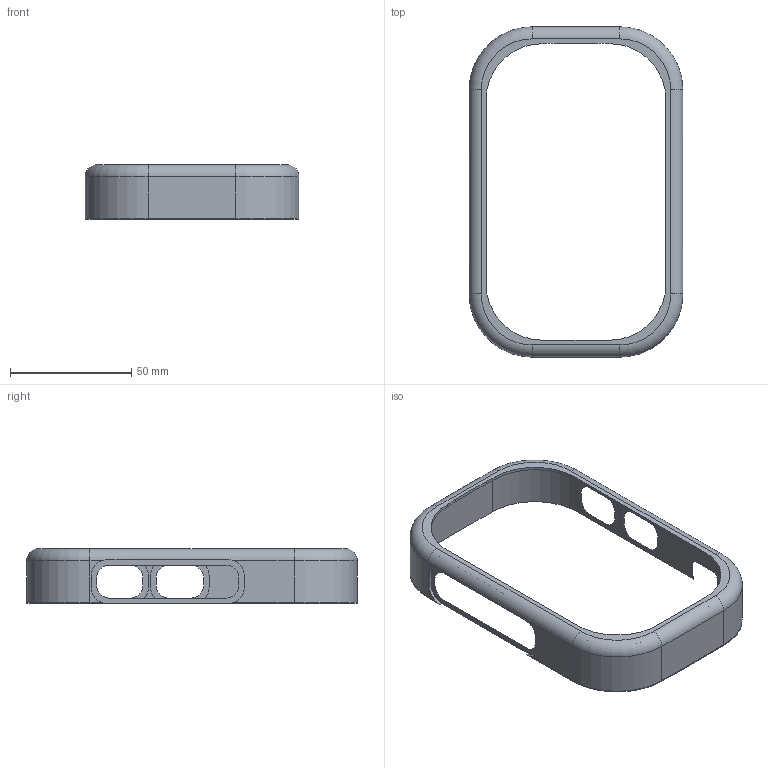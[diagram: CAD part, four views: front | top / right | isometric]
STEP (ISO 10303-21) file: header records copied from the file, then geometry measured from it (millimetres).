
FILE_DESCRIPTION(('Open CASCADE Model'),'2;1');
FILE_NAME('Open CASCADE Shape Model','2026-09-08T16:17:05',('Author'),( 'Open CASCADE'),'Open CASCADE STEP processor 7.7','Open CASCADE 7.7' ,'Unknown');
FILE_SCHEMA(('AUTOMOTIVE_DESIGN { 1 0 10303 214 1 1 1 1 }'));
Length unit declared in the file: millimetre
Products named in the file (1): Open CASCADE STEP translator 7.7 19
Bounding box: 88 x 136 x 22.6 mm (x, y, z)
Volume: 9629.7 mm3; surface area: 19774.6 mm2
Topology: 1 solids, 1 shells, 126 faces, 346 edges, 222 vertices
Faces by surface type: cylinder 62, plane 52, torus 12
Entity records: 8695 total; most frequent: CARTESIAN_POINT 1838, DIRECTION 1287, LINE 709, VECTOR 709, ORIENTED_EDGE 692, PCURVE 692, DEFINITIONAL_REPRESENTATION 692, EDGE_CURVE 346
